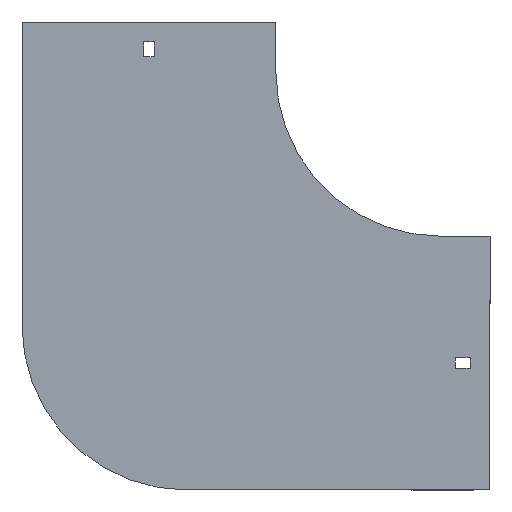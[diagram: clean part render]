
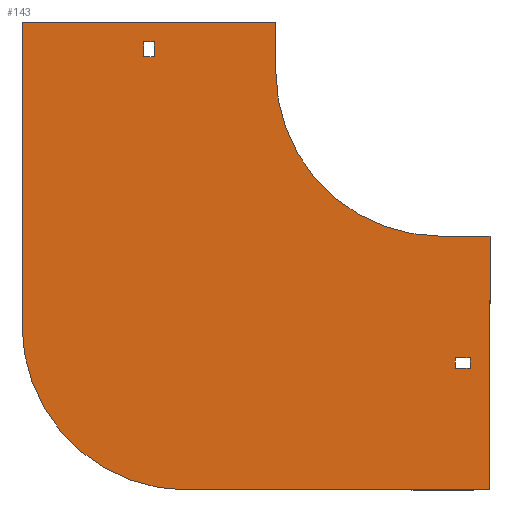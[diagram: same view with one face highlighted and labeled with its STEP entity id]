
A CAD part, front view. The second image highlights one B-rep face of the part: STEP entity #143.
In plain terms, the highlighted planar face has unit normal (0, -1, 0).
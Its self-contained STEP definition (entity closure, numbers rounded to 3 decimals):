
#3 = VECTOR ( 'NONE', #1030, 1000. ) ;
#5 = VECTOR ( 'NONE', #342, 1000. ) ;
#14 = CARTESIAN_POINT ( 'NONE',  ( -154., 0., -154. ) ) ;
#42 = CARTESIAN_POINT ( 'NONE',  ( 30., 0., -254. ) ) ;
#46 = CARTESIAN_POINT ( 'NONE',  ( 18., 0., -180.25 ) ) ;
#48 = DIRECTION ( 'NONE',  ( -1., 0., 0. ) ) ;
#72 = VECTOR ( 'NONE', #490, 1000. ) ;
#116 = CARTESIAN_POINT ( 'NONE',  ( -180.25, 0., 9. ) ) ;
#121 = CARTESIAN_POINT ( 'NONE',  ( 0., 0., 0. ) ) ;
#143 = ADVANCED_FACE ( 'NONE', ( #853, #948, #745 ), #761, .T. ) ;
#149 = DIRECTION ( 'NONE',  ( 0., 0., -1. ) ) ;
#150 = VECTOR ( 'NONE', #702, 1000. ) ;
#162 = CARTESIAN_POINT ( 'NONE',  ( -100., 0., 30. ) ) ;
#166 = VERTEX_POINT ( 'NONE', #317 ) ;
#167 = VERTEX_POINT ( 'NONE', #643 ) ;
#172 = CARTESIAN_POINT ( 'NONE',  ( -100., 0., 0. ) ) ;
#173 = EDGE_CURVE ( 'NONE', #587, #824, #1045, .T. ) ;
#176 = ORIENTED_EDGE ( 'NONE', *, *, #870, .T. ) ;
#184 = ORIENTED_EDGE ( 'NONE', *, *, #601, .F. ) ;
#191 = DIRECTION ( 'NONE',  ( 1., 0., 0. ) ) ;
#199 = ORIENTED_EDGE ( 'NONE', *, *, #834, .F. ) ;
#200 = LINE ( 'NONE', #116, #866 ) ;
#202 = ORIENTED_EDGE ( 'NONE', *, *, #291, .F. ) ;
#230 = CARTESIAN_POINT ( 'NONE',  ( -173.75, 0., 9. ) ) ;
#231 = EDGE_CURVE ( 'NONE', #743, #341, #855, .T. ) ;
#237 = CARTESIAN_POINT ( 'NONE',  ( -254., 0., 30. ) ) ;
#264 = AXIS2_PLACEMENT_3D ( 'NONE', #14, #1182, #328 ) ;
#272 = LINE ( 'NONE', #380, #614 ) ;
#274 = CARTESIAN_POINT ( 'NONE',  ( 30., 0., -100. ) ) ;
#278 = VECTOR ( 'NONE', #833, 1000. ) ;
#279 = VECTOR ( 'NONE', #595, 1000. ) ;
#291 = EDGE_CURVE ( 'NONE', #1002, #299, #1316, .T. ) ;
#299 = VERTEX_POINT ( 'NONE', #665 ) ;
#302 = ORIENTED_EDGE ( 'NONE', *, *, #904, .F. ) ;
#317 = CARTESIAN_POINT ( 'NONE',  ( 30., 0., -100. ) ) ;
#328 = DIRECTION ( 'NONE',  ( 0., 0., 1. ) ) ;
#341 = VERTEX_POINT ( 'NONE', #828 ) ;
#342 = DIRECTION ( 'NONE',  ( 1., 0., 0. ) ) ;
#359 = CARTESIAN_POINT ( 'NONE',  ( -254., 0., -154. ) ) ;
#366 = CARTESIAN_POINT ( 'NONE',  ( -180.25, 0., 18. ) ) ;
#368 = VERTEX_POINT ( 'NONE', #1090 ) ;
#372 = AXIS2_PLACEMENT_3D ( 'NONE', #121, #445, #541 ) ;
#380 = CARTESIAN_POINT ( 'NONE',  ( -173.75, 0., 9. ) ) ;
#391 = ORIENTED_EDGE ( 'NONE', *, *, #1096, .F. ) ;
#397 = LINE ( 'NONE', #492, #703 ) ;
#426 = CARTESIAN_POINT ( 'NONE',  ( 9., 0., -173.75 ) ) ;
#430 = ORIENTED_EDGE ( 'NONE', *, *, #717, .T. ) ;
#432 = VECTOR ( 'NONE', #802, 1000. ) ;
#445 = DIRECTION ( 'NONE',  ( 0., -1., 0. ) ) ;
#446 = CARTESIAN_POINT ( 'NONE',  ( 0., 0., 0. ) ) ;
#483 = EDGE_CURVE ( 'NONE', #166, #846, #805, .T. ) ;
#490 = DIRECTION ( 'NONE',  ( -1., 0., 0. ) ) ;
#492 = CARTESIAN_POINT ( 'NONE',  ( 0., 0., -100. ) ) ;
#518 = EDGE_CURVE ( 'NONE', #299, #549, #590, .T. ) ;
#541 = DIRECTION ( 'NONE',  ( 0., 0., -1. ) ) ;
#545 = ORIENTED_EDGE ( 'NONE', *, *, #763, .T. ) ;
#549 = VERTEX_POINT ( 'NONE', #172 ) ;
#568 = ORIENTED_EDGE ( 'NONE', *, *, #231, .F. ) ;
#576 = EDGE_CURVE ( 'NONE', #846, #587, #1032, .T. ) ;
#587 = VERTEX_POINT ( 'NONE', #919 ) ;
#590 = LINE ( 'NONE', #162, #150 ) ;
#595 = DIRECTION ( 'NONE',  ( 0., 0., -1. ) ) ;
#598 = CARTESIAN_POINT ( 'NONE',  ( 9., 0., -180.25 ) ) ;
#601 = EDGE_CURVE ( 'NONE', #862, #743, #1260, .T. ) ;
#614 = VECTOR ( 'NONE', #149, 1000. ) ;
#618 = LINE ( 'NONE', #1268, #278 ) ;
#643 = CARTESIAN_POINT ( 'NONE',  ( 0., 0., -100. ) ) ;
#665 = CARTESIAN_POINT ( 'NONE',  ( -100., 0., 30. ) ) ;
#668 = DIRECTION ( 'NONE',  ( -1., 0., 0. ) ) ;
#682 = CARTESIAN_POINT ( 'NONE',  ( -173.75, 0., 18. ) ) ;
#684 = ORIENTED_EDGE ( 'NONE', *, *, #1335, .F. ) ;
#702 = DIRECTION ( 'NONE',  ( 0., 0., -1. ) ) ;
#703 = VECTOR ( 'NONE', #191, 1000. ) ;
#714 = EDGE_CURVE ( 'NONE', #738, #1043, #200, .T. ) ;
#717 = EDGE_CURVE ( 'NONE', #1043, #368, #944, .T. ) ;
#724 = VECTOR ( 'NONE', #725, 1000. ) ;
#725 = DIRECTION ( 'NONE',  ( 0., 0., 1. ) ) ;
#728 = EDGE_LOOP ( 'NONE', ( #568, #184, #199, #684 ) ) ;
#738 = VERTEX_POINT ( 'NONE', #230 ) ;
#743 = VERTEX_POINT ( 'NONE', #46 ) ;
#745 = FACE_BOUND ( 'NONE', #728, .T. ) ;
#746 = VERTEX_POINT ( 'NONE', #682 ) ;
#749 = DIRECTION ( 'NONE',  ( 0., 0., 1. ) ) ;
#750 = VECTOR ( 'NONE', #1311, 1000. ) ;
#754 = CARTESIAN_POINT ( 'NONE',  ( -180.25, 0., 9. ) ) ;
#761 = PLANE ( 'NONE',  #865 ) ;
#763 = EDGE_CURVE ( 'NONE', #746, #738, #272, .T. ) ;
#785 = ORIENTED_EDGE ( 'NONE', *, *, #576, .F. ) ;
#789 = CARTESIAN_POINT ( 'NONE',  ( 9., 0., -173.75 ) ) ;
#793 = LINE ( 'NONE', #366, #432 ) ;
#802 = DIRECTION ( 'NONE',  ( 1., 0., 0. ) ) ;
#805 = LINE ( 'NONE', #274, #279 ) ;
#813 = CARTESIAN_POINT ( 'NONE',  ( 30., 0., -254. ) ) ;
#824 = VERTEX_POINT ( 'NONE', #359 ) ;
#828 = CARTESIAN_POINT ( 'NONE',  ( 18., 0., -173.75 ) ) ;
#833 = DIRECTION ( 'NONE',  ( 0., 0., 1. ) ) ;
#834 = EDGE_CURVE ( 'NONE', #1153, #862, #1353, .T. ) ;
#846 = VERTEX_POINT ( 'NONE', #42 ) ;
#853 = FACE_BOUND ( 'NONE', #1129, .T. ) ;
#855 = LINE ( 'NONE', #1296, #1346 ) ;
#860 = EDGE_LOOP ( 'NONE', ( #202, #958, #1356, #785, #1361, #302, #391, #1323 ) ) ;
#862 = VERTEX_POINT ( 'NONE', #1338 ) ;
#865 = AXIS2_PLACEMENT_3D ( 'NONE', #446, #873, #1388 ) ;
#866 = VECTOR ( 'NONE', #668, 1000. ) ;
#870 = EDGE_CURVE ( 'NONE', #368, #746, #793, .T. ) ;
#873 = DIRECTION ( 'NONE',  ( 0., -1., 0. ) ) ;
#904 = EDGE_CURVE ( 'NONE', #167, #166, #397, .T. ) ;
#916 = ORIENTED_EDGE ( 'NONE', *, *, #714, .T. ) ;
#919 = CARTESIAN_POINT ( 'NONE',  ( -154., 0., -254. ) ) ;
#944 = LINE ( 'NONE', #1381, #724 ) ;
#948 = FACE_OUTER_BOUND ( 'NONE', #860, .T. ) ;
#958 = ORIENTED_EDGE ( 'NONE', *, *, #993, .F. ) ;
#993 = EDGE_CURVE ( 'NONE', #824, #1002, #618, .T. ) ;
#1002 = VERTEX_POINT ( 'NONE', #1191 ) ;
#1030 = DIRECTION ( 'NONE',  ( 0., 0., -1. ) ) ;
#1032 = LINE ( 'NONE', #813, #72 ) ;
#1043 = VERTEX_POINT ( 'NONE', #754 ) ;
#1045 = CIRCLE ( 'NONE', #264, 100. ) ;
#1090 = CARTESIAN_POINT ( 'NONE',  ( -180.25, 0., 18. ) ) ;
#1096 = EDGE_CURVE ( 'NONE', #549, #167, #1345, .T. ) ;
#1104 = CARTESIAN_POINT ( 'NONE',  ( 9., 0., -180.25 ) ) ;
#1129 = EDGE_LOOP ( 'NONE', ( #430, #176, #545, #916 ) ) ;
#1153 = VERTEX_POINT ( 'NONE', #426 ) ;
#1182 = DIRECTION ( 'NONE',  ( 0., 1., 0. ) ) ;
#1191 = CARTESIAN_POINT ( 'NONE',  ( -254., 0., 30. ) ) ;
#1260 = LINE ( 'NONE', #1104, #750 ) ;
#1268 = CARTESIAN_POINT ( 'NONE',  ( -254., 0., -154. ) ) ;
#1296 = CARTESIAN_POINT ( 'NONE',  ( 18., 0., -180.25 ) ) ;
#1311 = DIRECTION ( 'NONE',  ( 1., 0., 0. ) ) ;
#1316 = LINE ( 'NONE', #237, #5 ) ;
#1320 = LINE ( 'NONE', #789, #1349 ) ;
#1323 = ORIENTED_EDGE ( 'NONE', *, *, #518, .F. ) ;
#1335 = EDGE_CURVE ( 'NONE', #341, #1153, #1320, .T. ) ;
#1338 = CARTESIAN_POINT ( 'NONE',  ( 9., 0., -180.25 ) ) ;
#1345 = CIRCLE ( 'NONE', #372, 100. ) ;
#1346 = VECTOR ( 'NONE', #749, 1000. ) ;
#1349 = VECTOR ( 'NONE', #48, 1000. ) ;
#1353 = LINE ( 'NONE', #598, #3 ) ;
#1356 = ORIENTED_EDGE ( 'NONE', *, *, #173, .F. ) ;
#1361 = ORIENTED_EDGE ( 'NONE', *, *, #483, .F. ) ;
#1381 = CARTESIAN_POINT ( 'NONE',  ( -180.25, 0., 9. ) ) ;
#1388 = DIRECTION ( 'NONE',  ( 0., 0., -1. ) ) ;
